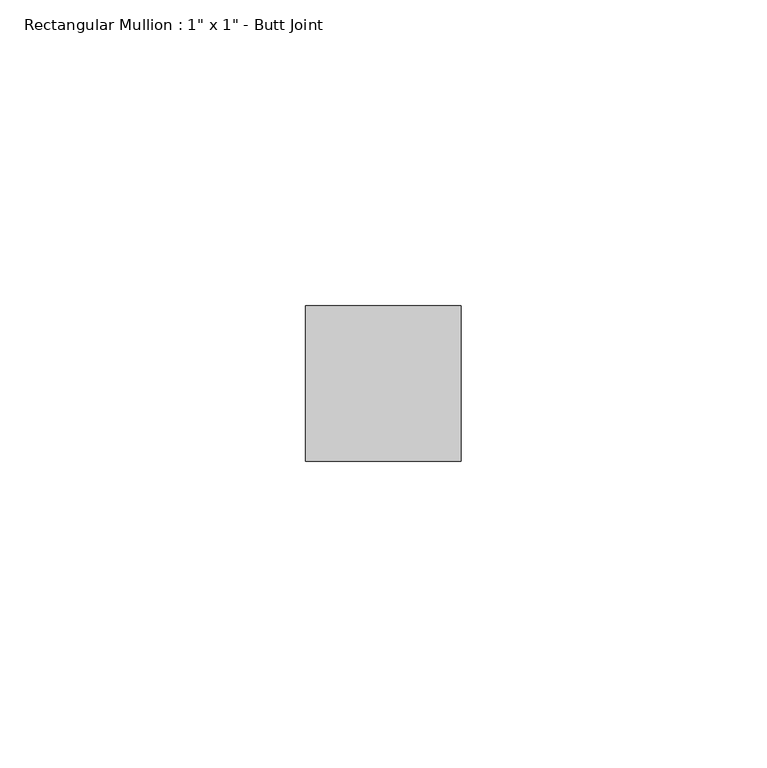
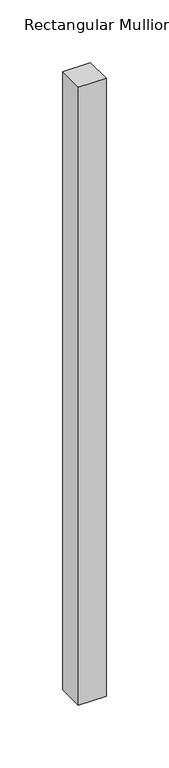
"""IFC4 building model written with IfcOpenShell, lengths in millimetres: member geometry."""

from ifc_helpers import new_model, si_unit, frame, origin, place, context, project, spatial, polyline, outline, extrude, source, transform, mapped, element, save


def member_930b0c29(model_context):
    return source(origin(), model_context, "Body", "SweptSolid", [
        extrude(outline(polyline([(12.7, 12.7), (12.7, -12.7), (-12.7, -12.7), (-12.7, 12.7), (12.7, 12.7)])), frame((0.0, 0.0, -602.7424908), z_axis=(0.0, 0.0, 1.0), x_axis=(1.0, 0.0, 0.0)), (0.0, 0.0, 1.0), 602.7424908),
    ])


if __name__ == "__main__":
    model = new_model("IFC4")
    model_context = context("Model", 3, world=origin())
    ifc_project = project(units=[si_unit("LENGTHUNIT", "METRE", prefix="MILLI")], contexts=[model_context])
    site = spatial("IfcSite", under=ifc_project)
    building = spatial("IfcBuilding", under=site)
    placement = place(None, origin())
    member_shape = member_930b0c29(model_context)
    element("IfcMember", 1, ObjectType="Rectangular Mullion : 1\" x 1\" - Butt Joint", at=placement, inside=building, context=model_context, shape_type="MappedRepresentation", body=[
        mapped(member_shape, transform((0.0, 0.0, 0.0), x_axis=(1.0, 0.0, 0.0), y_axis=(0.0, 1.0, 0.0), z_axis=(0.0, 0.0, 1.0))),
    ])
    save(model, "model.ifc")
